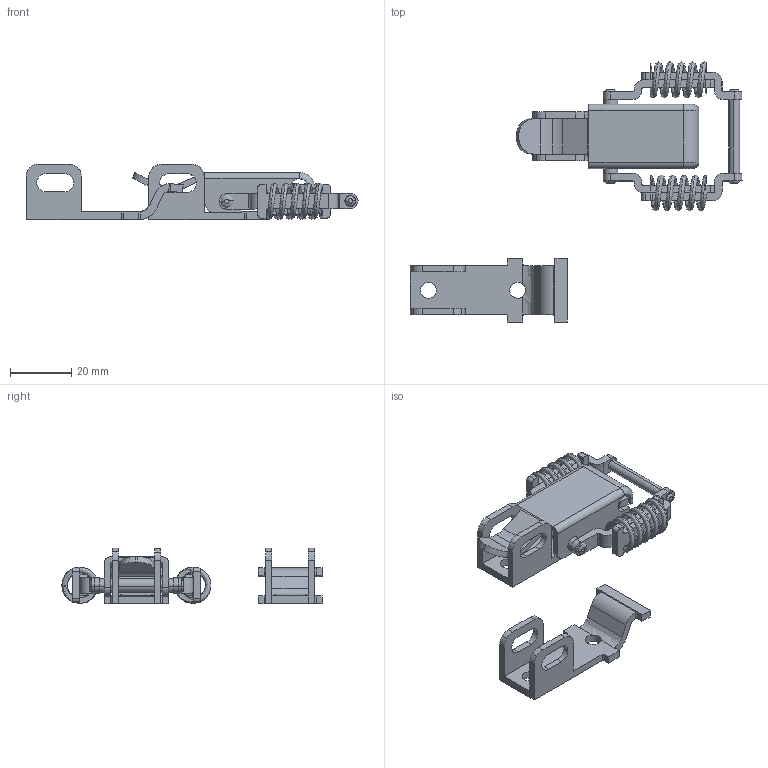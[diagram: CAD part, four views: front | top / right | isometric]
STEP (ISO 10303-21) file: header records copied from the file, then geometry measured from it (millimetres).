
FILE_DESCRIPTION((''),'2;1');
FILE_NAME('6610.stp','2023-10-09T12:29:09',(''),(''),'Mechanical Desktop 2006','Mechanical Desktop 2006',', , ');
FILE_SCHEMA(('CONFIG_CONTROL_DESIGN'));
Length unit declared in the file: millimetre
Products named in the file (11): 6610; TEIL2; TEIL3; TEIL4; TEIL5; TEIL6; TEIL7; TEIL8; TEIL9; TEIL10; TEIL11
Assembly tree (11 placements, depth 2):
  6610
    TEIL2  x2
    TEIL3
    TEIL4
    TEIL5
    TEIL6
    TEIL7
    TEIL8
    TEIL9
    TEIL10
    TEIL11
Bounding box: 108.03 x 84.65 x 18.21 mm (x, y, z)
Volume: 12950.5 mm3; surface area: 15737.7 mm2
Topology: 11 solids, 11 shells, 325 faces, 879 edges, 572 vertices
Faces by surface type: plane 172, bspline 111, cylinder 40, torus 2
Entity records: 12927 total; most frequent: CARTESIAN_POINT 6638, ORIENTED_EDGE 1342, DIRECTION 1184, EDGE_CURVE 671, VERTEX_POINT 437, VECTOR 422, LINE 422, AXIS2_PLACEMENT_3D 381
